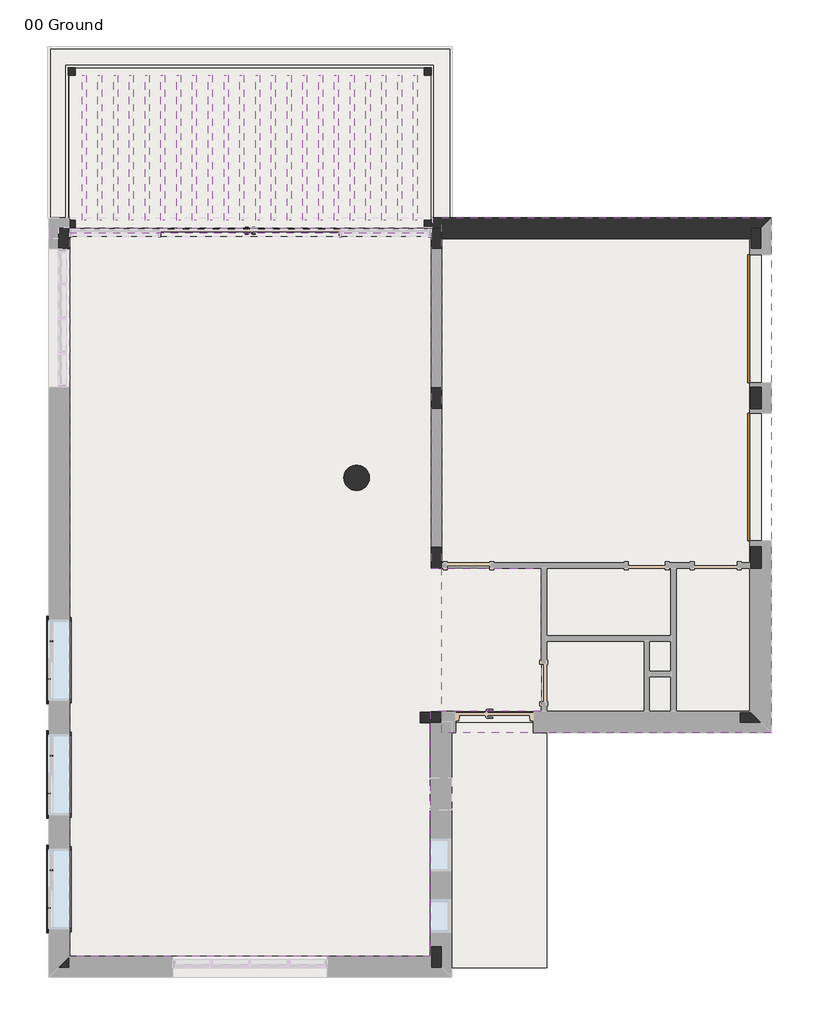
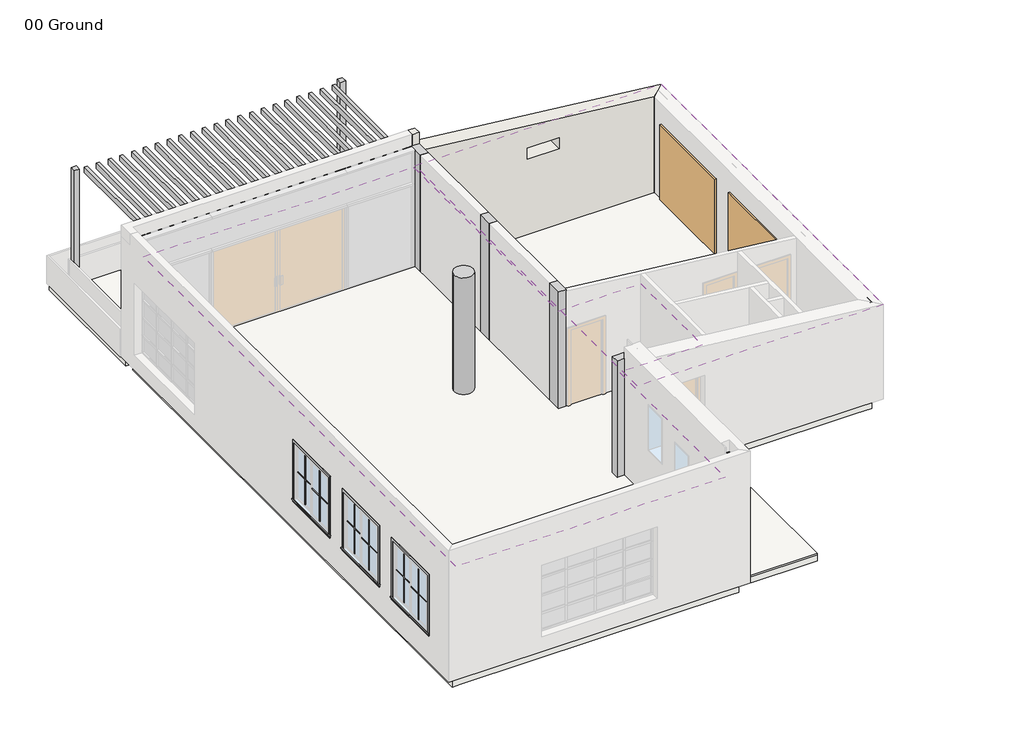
# One storey, part 3 of 3: 22 beams, 19 columns, 12 proxies, 6 slabs, 2 doors, 1 covering, 1 roof, 1 wall.
"""IFC4 building model written with IfcOpenShell, lengths in millimetres."""

from ifc_helpers import new_model, si_unit, point, frame, frame_2d, origin, origin_with_axes, place, context, project, spatial, polyline, circle_curve, trimmed, segment, composite_curve, outline, extrude, faceted_brep, transform, mapped, element, save
from ifc_brep_helpers import plane_surface, cylinder_surface, advanced_brep
from components import m_glulam_southern_pine_76x140_5a5c9036, m_muntin_pattern_2x2_m_muntin_pattern_2x2_30659562, m_trim_window_exterior_flat_with_sill_22923e22, m_trim_window_interior_flat_picture_frame_2e224720, m_glulam_southern_pine_column_127x140_dd4b0262, m_door_overhead_sectional_2400_x_2000mm_9fe30cd6

model = new_model("IFC4")

# Units and contexts
model_context = context("Model", 3, world=origin())
ifc_project = project(units=[si_unit("LENGTHUNIT", "METRE", prefix="MILLI")], contexts=[model_context])

# Site, building, storey
site = spatial("IfcSite", under=ifc_project)
building = spatial("IfcBuilding", under=site)
storey = spatial("IfcBuildingStorey", under=building, Name="00 Ground", Elevation=0.0)

# Beams
placement = place(None, origin())
m_glulam_southern_pine_76x140_shape = m_glulam_southern_pine_76x140_5a5c9036(model_context)
element("IfcBeam", 1, ObjectType="M_Glulam-Southern Pine : 76X140", at=placement, inside=storey, context=model_context, shape_type="MappedRepresentation", body=[
    mapped(m_glulam_southern_pine_76x140_shape, transform((-6656.0190608, 7837.2898352, 3130.0), x_axis=(0.0, -1.0, 0.0), y_axis=(1.0, 0.0, 0.0), z_axis=(0.0, 0.0, 1.0))),
])
element("IfcBeam", 2, ObjectType="M_Glulam-Southern Pine : 76X140", at=placement, inside=storey, context=model_context, shape_type="MappedRepresentation", body=[
    mapped(m_glulam_southern_pine_76x140_shape, transform((-6952.3234086, 7837.2898352, 3130.0), x_axis=(0.0, -1.0, 0.0), y_axis=(1.0, 0.0, 0.0), z_axis=(0.0, 0.0, 1.0))),
])
element("IfcBeam", 3, ObjectType="M_Glulam-Southern Pine : 76X140", at=placement, inside=storey, context=model_context, shape_type="MappedRepresentation", body=[
    mapped(m_glulam_southern_pine_76x140_shape, transform((-7248.6277565, 7837.2898352, 3130.0), x_axis=(0.0, -1.0, 0.0), y_axis=(1.0, 0.0, 0.0), z_axis=(0.0, 0.0, 1.0))),
])
element("IfcBeam", 4, ObjectType="M_Glulam-Southern Pine : 76X140", at=placement, inside=storey, context=model_context, shape_type="MappedRepresentation", body=[
    mapped(m_glulam_southern_pine_76x140_shape, transform((-7544.9321043, 7837.2898352, 3130.0), x_axis=(0.0, -1.0, 0.0), y_axis=(1.0, 0.0, 0.0), z_axis=(0.0, 0.0, 1.0))),
])
element("IfcBeam", 5, ObjectType="M_Glulam-Southern Pine : 76X140", at=placement, inside=storey, context=model_context, shape_type="MappedRepresentation", body=[
    mapped(m_glulam_southern_pine_76x140_shape, transform((-7841.2364521, 7837.2898352, 3130.0), x_axis=(0.0, -1.0, 0.0), y_axis=(1.0, 0.0, 0.0), z_axis=(0.0, 0.0, 1.0))),
])
element("IfcBeam", 6, ObjectType="M_Glulam-Southern Pine : 76X140", at=placement, inside=storey, context=model_context, shape_type="MappedRepresentation", body=[
    mapped(m_glulam_southern_pine_76x140_shape, transform((-1618.8451478, 7837.2898352, 3130.0), x_axis=(0.0, -1.0, 0.0), y_axis=(1.0, 0.0, 0.0), z_axis=(0.0, 0.0, 1.0))),
])
element("IfcBeam", 7, ObjectType="M_Glulam-Southern Pine : 76X140", at=placement, inside=storey, context=model_context, shape_type="MappedRepresentation", body=[
    mapped(m_glulam_southern_pine_76x140_shape, transform((-1915.1494956, 7837.2898352, 3130.0), x_axis=(0.0, -1.0, 0.0), y_axis=(1.0, 0.0, 0.0), z_axis=(0.0, 0.0, 1.0))),
])
element("IfcBeam", 8, ObjectType="M_Glulam-Southern Pine : 76X140", at=placement, inside=storey, context=model_context, shape_type="MappedRepresentation", body=[
    mapped(m_glulam_southern_pine_76x140_shape, transform((-2211.4538434, 7837.2898352, 3130.0), x_axis=(0.0, -1.0, 0.0), y_axis=(1.0, 0.0, 0.0), z_axis=(0.0, 0.0, 1.0))),
])
element("IfcBeam", 9, ObjectType="M_Glulam-Southern Pine : 76X140", at=placement, inside=storey, context=model_context, shape_type="MappedRepresentation", body=[
    mapped(m_glulam_southern_pine_76x140_shape, transform((-2507.7581912, 7837.2898352, 3130.0), x_axis=(0.0, -1.0, 0.0), y_axis=(1.0, 0.0, 0.0), z_axis=(0.0, 0.0, 1.0))),
])
element("IfcBeam", 10, ObjectType="M_Glulam-Southern Pine : 76X140", at=placement, inside=storey, context=model_context, shape_type="MappedRepresentation", body=[
    mapped(m_glulam_southern_pine_76x140_shape, transform((-2804.0625391, 7837.2898352, 3130.0), x_axis=(0.0, -1.0, 0.0), y_axis=(1.0, 0.0, 0.0), z_axis=(0.0, 0.0, 1.0))),
])
element("IfcBeam", 11, ObjectType="M_Glulam-Southern Pine : 76X140", at=placement, inside=storey, context=model_context, shape_type="MappedRepresentation", body=[
    mapped(m_glulam_southern_pine_76x140_shape, transform((-3100.3668869, 7837.2898352, 3130.0), x_axis=(0.0, -1.0, 0.0), y_axis=(1.0, 0.0, 0.0), z_axis=(0.0, 0.0, 1.0))),
])
element("IfcBeam", 12, ObjectType="M_Glulam-Southern Pine : 76X140", at=placement, inside=storey, context=model_context, shape_type="MappedRepresentation", body=[
    mapped(m_glulam_southern_pine_76x140_shape, transform((-3396.6712347, 7837.2898352, 3130.0), x_axis=(0.0, -1.0, 0.0), y_axis=(1.0, 0.0, 0.0), z_axis=(0.0, 0.0, 1.0))),
])
element("IfcBeam", 13, ObjectType="M_Glulam-Southern Pine : 76X140", at=placement, inside=storey, context=model_context, shape_type="MappedRepresentation", body=[
    mapped(m_glulam_southern_pine_76x140_shape, transform((-3692.9755825, 7837.2898352, 3130.0), x_axis=(0.0, -1.0, 0.0), y_axis=(1.0, 0.0, 0.0), z_axis=(0.0, 0.0, 1.0))),
])
element("IfcBeam", 14, ObjectType="M_Glulam-Southern Pine : 76X140", at=placement, inside=storey, context=model_context, shape_type="MappedRepresentation", body=[
    mapped(m_glulam_southern_pine_76x140_shape, transform((-3989.2799304, 7837.2898352, 3130.0), x_axis=(0.0, -1.0, 0.0), y_axis=(1.0, 0.0, 0.0), z_axis=(0.0, 0.0, 1.0))),
])
element("IfcBeam", 15, ObjectType="M_Glulam-Southern Pine : 76X140", at=placement, inside=storey, context=model_context, shape_type="MappedRepresentation", body=[
    mapped(m_glulam_southern_pine_76x140_shape, transform((-4285.5842782, 7837.2898352, 3130.0), x_axis=(0.0, -1.0, 0.0), y_axis=(1.0, 0.0, 0.0), z_axis=(0.0, 0.0, 1.0))),
])
element("IfcBeam", 16, ObjectType="M_Glulam-Southern Pine : 76X140", at=placement, inside=storey, context=model_context, shape_type="MappedRepresentation", body=[
    mapped(m_glulam_southern_pine_76x140_shape, transform((-4581.888626, 7837.2898352, 3130.0), x_axis=(0.0, -1.0, 0.0), y_axis=(1.0, 0.0, 0.0), z_axis=(0.0, 0.0, 1.0))),
])
element("IfcBeam", 17, ObjectType="M_Glulam-Southern Pine : 76X140", at=placement, inside=storey, context=model_context, shape_type="MappedRepresentation", body=[
    mapped(m_glulam_southern_pine_76x140_shape, transform((-4878.1929738, 7837.2898352, 3130.0), x_axis=(0.0, -1.0, 0.0), y_axis=(1.0, 0.0, 0.0), z_axis=(0.0, 0.0, 1.0))),
])
element("IfcBeam", 18, ObjectType="M_Glulam-Southern Pine : 76X140", at=placement, inside=storey, context=model_context, shape_type="MappedRepresentation", body=[
    mapped(m_glulam_southern_pine_76x140_shape, transform((-5174.4973217, 7837.2898352, 3130.0), x_axis=(0.0, -1.0, 0.0), y_axis=(1.0, 0.0, 0.0), z_axis=(0.0, 0.0, 1.0))),
])
element("IfcBeam", 19, ObjectType="M_Glulam-Southern Pine : 76X140", at=placement, inside=storey, context=model_context, shape_type="MappedRepresentation", body=[
    mapped(m_glulam_southern_pine_76x140_shape, transform((-5470.8016695, 7837.2898352, 3130.0), x_axis=(0.0, -1.0, 0.0), y_axis=(1.0, 0.0, 0.0), z_axis=(0.0, 0.0, 1.0))),
])
element("IfcBeam", 20, ObjectType="M_Glulam-Southern Pine : 76X140", at=placement, inside=storey, context=model_context, shape_type="MappedRepresentation", body=[
    mapped(m_glulam_southern_pine_76x140_shape, transform((-5767.1060173, 7837.2898352, 3130.0), x_axis=(0.0, -1.0, 0.0), y_axis=(1.0, 0.0, 0.0), z_axis=(0.0, 0.0, 1.0))),
])
element("IfcBeam", 21, ObjectType="M_Glulam-Southern Pine : 76X140", at=placement, inside=storey, context=model_context, shape_type="MappedRepresentation", body=[
    mapped(m_glulam_southern_pine_76x140_shape, transform((-6063.4103652, 7837.2898352, 3130.0), x_axis=(0.0, -1.0, 0.0), y_axis=(1.0, 0.0, 0.0), z_axis=(0.0, 0.0, 1.0))),
])
element("IfcBeam", 22, ObjectType="M_Glulam-Southern Pine : 76X140", at=placement, inside=storey, context=model_context, shape_type="MappedRepresentation", body=[
    mapped(m_glulam_southern_pine_76x140_shape, transform((-6359.714713, 7837.2898352, 3130.0), x_axis=(0.0, -1.0, 0.0), y_axis=(1.0, 0.0, 0.0), z_axis=(0.0, 0.0, 1.0))),
])

# Proxies
m_muntin_pattern_2x2_m_muntin_pattern_2x2_shape = m_muntin_pattern_2x2_m_muntin_pattern_2x2_30659562(model_context)
element("IfcBuildingElementProxy", 23, Name="M_Muntin Pattern_2x2 : M_Muntin Pattern_2x2", ObjectType="M_Muntin Pattern_2x2 : M_Muntin Pattern_2x2", at=placement, inside=storey, context=model_context, shape_type="MappedRepresentation", body=[
    mapped(m_muntin_pattern_2x2_m_muntin_pattern_2x2_shape, transform((-8453.5657999, -5733.3476648, 882.55), x_axis=(0.0, 1.0, 0.0), y_axis=(-1.0, 0.0, 0.0), z_axis=(0.0, 0.0, 1.0))),
])
element("IfcBuildingElementProxy", 24, Name="M_Muntin Pattern_2x2 : M_Muntin Pattern_2x2", ObjectType="M_Muntin Pattern_2x2 : M_Muntin Pattern_2x2", at=placement, inside=storey, context=model_context, shape_type="MappedRepresentation", body=[
    mapped(m_muntin_pattern_2x2_m_muntin_pattern_2x2_shape, transform((-8498.0157999, -6442.0726648, 882.55), x_axis=(0.0, 1.0, 0.0), y_axis=(-1.0, 0.0, 0.0), z_axis=(0.0, 0.0, 1.0))),
])
element("IfcBuildingElementProxy", 25, Name="M_Muntin Pattern_2x2 : M_Muntin Pattern_2x2", ObjectType="M_Muntin Pattern_2x2 : M_Muntin Pattern_2x2", at=placement, inside=storey, context=model_context, shape_type="MappedRepresentation", body=[
    mapped(m_muntin_pattern_2x2_m_muntin_pattern_2x2_shape, transform((-8453.5657999, -3583.3476648, 882.55), x_axis=(0.0, 1.0, 0.0), y_axis=(-1.0, 0.0, 0.0), z_axis=(0.0, 0.0, 1.0))),
])
element("IfcBuildingElementProxy", 26, Name="M_Muntin Pattern_2x2 : M_Muntin Pattern_2x2", ObjectType="M_Muntin Pattern_2x2 : M_Muntin Pattern_2x2", at=placement, inside=storey, context=model_context, shape_type="MappedRepresentation", body=[
    mapped(m_muntin_pattern_2x2_m_muntin_pattern_2x2_shape, transform((-8498.0157999, -4292.0726648, 882.55), x_axis=(0.0, 1.0, 0.0), y_axis=(-1.0, 0.0, 0.0), z_axis=(0.0, 0.0, 1.0))),
])
element("IfcBuildingElementProxy", 27, Name="M_Muntin Pattern_2x2 : M_Muntin Pattern_2x2", ObjectType="M_Muntin Pattern_2x2 : M_Muntin Pattern_2x2", at=placement, inside=storey, context=model_context, shape_type="MappedRepresentation", body=[
    mapped(m_muntin_pattern_2x2_m_muntin_pattern_2x2_shape, transform((-8453.5657999, -1433.3476648, 882.55), x_axis=(0.0, 1.0, 0.0), y_axis=(-1.0, 0.0, 0.0), z_axis=(0.0, 0.0, 1.0))),
])
element("IfcBuildingElementProxy", 28, Name="M_Muntin Pattern_2x2 : M_Muntin Pattern_2x2", ObjectType="M_Muntin Pattern_2x2 : M_Muntin Pattern_2x2", at=placement, inside=storey, context=model_context, shape_type="MappedRepresentation", body=[
    mapped(m_muntin_pattern_2x2_m_muntin_pattern_2x2_shape, transform((-8498.0157999, -2142.0726648, 882.55), x_axis=(0.0, 1.0, 0.0), y_axis=(-1.0, 0.0, 0.0), z_axis=(0.0, 0.0, 1.0))),
])
m_trim_window_exterior_flat_with_sill_shape = m_trim_window_exterior_flat_with_sill_22923e22(model_context)
element("IfcBuildingElementProxy", 29, Name="M_Trim-Window-Exterior-Flat : with Sill", ObjectType="M_Trim-Window-Exterior-Flat : with Sill", at=placement, inside=storey, context=model_context, shape_type="MappedRepresentation", body=[
    mapped(m_trim_window_exterior_flat_with_sill_shape, transform((-8507.5407999, -6087.7101648, 2300.0), x_axis=(0.0, -1.0, 0.0), y_axis=(0.0, 0.0, 1.0), z_axis=(-1.0, 0.0, 0.0))),
])
element("IfcBuildingElementProxy", 30, Name="M_Trim-Window-Exterior-Flat : with Sill", ObjectType="M_Trim-Window-Exterior-Flat : with Sill", at=placement, inside=storey, context=model_context, shape_type="MappedRepresentation", body=[
    mapped(m_trim_window_exterior_flat_with_sill_shape, transform((-8507.5407999, -3937.7101648, 2300.0), x_axis=(0.0, -1.0, 0.0), y_axis=(0.0, 0.0, 1.0), z_axis=(-1.0, 0.0, 0.0))),
])
element("IfcBuildingElementProxy", 31, Name="M_Trim-Window-Exterior-Flat : with Sill", ObjectType="M_Trim-Window-Exterior-Flat : with Sill", at=placement, inside=storey, context=model_context, shape_type="MappedRepresentation", body=[
    mapped(m_trim_window_exterior_flat_with_sill_shape, transform((-8507.5407999, -1787.7101648, 2300.0), x_axis=(0.0, -1.0, 0.0), y_axis=(0.0, 0.0, 1.0), z_axis=(-1.0, 0.0, 0.0))),
])
m_trim_window_interior_flat_picture_frame_shape = m_trim_window_interior_flat_picture_frame_2e224720(model_context)
element("IfcBuildingElementProxy", 32, Name="M_Trim-Window-Interior-Flat : Picture Frame", ObjectType="M_Trim-Window-Interior-Flat : Picture Frame", at=placement, inside=storey, context=model_context, shape_type="MappedRepresentation", body=[
    mapped(m_trim_window_interior_flat_picture_frame_shape, transform((-8109.5407999, -6087.7101648, 2300.0), x_axis=(0.0, 1.0, 0.0), y_axis=(0.0, 0.0, 1.0), z_axis=(1.0, 0.0, 0.0))),
])
element("IfcBuildingElementProxy", 33, Name="M_Trim-Window-Interior-Flat : Picture Frame", ObjectType="M_Trim-Window-Interior-Flat : Picture Frame", at=placement, inside=storey, context=model_context, shape_type="MappedRepresentation", body=[
    mapped(m_trim_window_interior_flat_picture_frame_shape, transform((-8109.5407999, -3937.7101648, 2300.0), x_axis=(0.0, 1.0, 0.0), y_axis=(0.0, 0.0, 1.0), z_axis=(1.0, 0.0, 0.0))),
])
element("IfcBuildingElementProxy", 34, Name="M_Trim-Window-Interior-Flat : Picture Frame", ObjectType="M_Trim-Window-Interior-Flat : Picture Frame", at=placement, inside=storey, context=model_context, shape_type="MappedRepresentation", body=[
    mapped(m_trim_window_interior_flat_picture_frame_shape, transform((-8109.5407999, -1787.7101648, 2300.0), x_axis=(0.0, 1.0, 0.0), y_axis=(0.0, 0.0, 1.0), z_axis=(1.0, 0.0, 0.0))),
])

# Columns
element("IfcColumn", 35, ObjectType="M_Concrete-Rectangular-Column : 200 x 400mm", at=placement, inside=storey, context=model_context, shape_type="Brep", body=[
    faceted_brep([(-8122.5407999, 6337.2898352, 0.0), (-8122.5407999, 5937.2898352, 0.0), (-8322.5407999, 5937.2898352, 0.0), (-8322.5407999, 6337.2898352, 0.0), (-8122.5407999, 6337.2898352, 3200.0), (-8122.5407999, 5937.2898352, 3200.0), (-8122.5407999, 5937.2898352, 2300.0), (-8122.5407999, 5937.2898352, 400.0), (-8322.5407999, 5937.2898352, 3200.0), (-8322.5407999, 5937.2898352, 2300.0), (-8322.5407999, 5937.2898352, 400.0), (-8322.5407999, 6124.2898352, 3200.0), (-8322.5407999, 6337.2898352, 3200.0)], [[[0, 1, 2, 3]], [[1, 0, 4, 5, 6, 7]], [[2, 1, 7, 6, 5, 8, 9, 10]], [[3, 2, 10, 9, 8, 11, 12]], [[0, 3, 12, 4]], [[5, 4, 12, 11, 8]]]),
])
element("IfcColumn", 36, ObjectType="M_Concrete-Rectangular-Column : 200 x 400mm", at=placement, inside=storey, context=model_context, shape_type="SweptSolid", body=[
    extrude(outline(polyline([(-8122.5407999, 3337.2898352), (-8122.5407999, 2937.2898352), (-8322.5407999, 2937.2898352), (-8322.5407999, 3337.2898352), (-8122.5407999, 3337.2898352)])), origin_with_axes(), (0.0, 0.0, 1.0), 3200.0),
])
element("IfcColumn", 37, ObjectType="M_Concrete-Rectangular-Column : 200 x 400mm", at=placement, inside=storey, context=model_context, shape_type="SweptSolid", body=[
    extrude(outline(polyline([(-8122.5407999, 337.2898352), (-8122.5407999, -62.7101648), (-8322.5407999, -62.7101648), (-8322.5407999, 337.2898352), (-8122.5407999, 337.2898352)])), origin_with_axes(), (0.0, 0.0, 1.0), 3200.0),
])
element("IfcColumn", 38, ObjectType="M_Concrete-Rectangular-Column : 200 x 400mm", at=placement, inside=storey, context=model_context, shape_type="SweptSolid", body=[
    extrude(outline(polyline([(-8122.5407999, -2662.7101648), (-8122.5407999, -3062.7101648), (-8322.5407999, -3062.7101648), (-8322.5407999, -2662.7101648), (-8122.5407999, -2662.7101648)])), origin_with_axes(), (0.0, 0.0, 1.0), 3200.0),
])
element("IfcColumn", 39, ObjectType="M_Concrete-Rectangular-Column : 200 x 400mm", at=placement, inside=storey, context=model_context, shape_type="SweptSolid", body=[
    extrude(outline(polyline([(-1122.5407999, 337.2898352), (-1122.5407999, -62.7101648), (-1322.5407999, -62.7101648), (-1322.5407999, 337.2898352), (-1122.5407999, 337.2898352)])), origin_with_axes(), (0.0, 0.0, 1.0), 3200.0),
])
element("IfcColumn", 40, ObjectType="M_Concrete-Rectangular-Column : 200 x 400mm", at=placement, inside=storey, context=model_context, shape_type="Brep", body=[
    faceted_brep([(-1522.5407999, -2762.7101648, 0.0), (-1122.5407999, -2762.7101648, 0.0), (-1122.5407999, -2948.7101648, 0.0), (-1122.5407999, -2962.7101648, 0.0), (-1335.5407999, -2962.7101648, 0.0), (-1522.5407999, -2962.7101648, 0.0), (-1522.5407999, -2762.7101648, 3200.0), (-1122.5407999, -2762.7101648, 3200.0), (-1122.5407999, -2962.7101648, 3200.0), (-1522.5407999, -2962.7101648, 3200.0)], [[[0, 1, 2, 3, 4, 5]], [[1, 0, 6, 7]], [[3, 2, 1, 7, 8]], [[5, 4, 3, 8, 9]], [[0, 5, 9, 6]], [[7, 6, 9, 8]]]),
])
element("IfcColumn", 41, ObjectType="M_Concrete-Rectangular-Column : 200 x 400mm", at=placement, inside=storey, context=model_context, shape_type="Brep", body=[
    faceted_brep([(4877.4592001, 6337.2898352, 0.0), (4877.4592001, 5937.2898352, 0.0), (4677.4592001, 5937.2898352, 0.0), (4677.4592001, 6137.2898352, 0.0), (4677.4592001, 6337.2898352, 0.0), (4877.4592001, 6337.2898352, 2519.7413096), (4877.4592001, 5937.2898352, 2519.7413096), (4677.4592001, 5937.2898352, 2519.7413096), (4677.4592001, 6137.2898352, 2519.7413096), (4677.4592001, 6337.2898352, 2519.7413096)], [[[0, 1, 2, 3, 4]], [[5, 6, 1, 0]], [[6, 7, 2, 1]], [[7, 8, 9, 4, 3, 2]], [[9, 5, 0, 4]], [[5, 9, 8, 7, 6]]]),
])
element("IfcColumn", 42, ObjectType="M_Concrete-Rectangular-Column : 200 x 400mm", at=placement, inside=storey, context=model_context, shape_type="Brep", body=[
    faceted_brep([(-1122.5407999, 6337.2898352, 0.0), (-1122.5407999, 6124.2898352, 0.0), (-1122.5407999, 5937.2898352, 0.0), (-1322.5407999, 5937.2898352, 0.0), (-1322.5407999, 6337.2898352, 0.0), (-1122.5407999, 6337.2898352, 3160.0), (-1122.5407999, 6337.2898352, 3200.0), (-1122.5407999, 5937.2898352, 3200.0), (-1322.5407999, 5937.2898352, 3200.0), (-1322.5407999, 6337.2898352, 3200.0), (-1300.0407999, 6337.2898352, 3200.0)], [[[0, 1, 2, 3, 4]], [[2, 1, 0, 5, 6, 7]], [[3, 2, 7, 8]], [[4, 3, 8, 9]], [[0, 4, 9, 10, 6, 5]], [[7, 6, 10, 9, 8]]]),
])
element("IfcColumn", 43, ObjectType="M_Concrete-Rectangular-Column : 200 x 400mm", at=placement, inside=storey, context=model_context, shape_type="SweptSolid", body=[
    extrude(outline(polyline([(-1122.5407999, 3337.2898352), (-1122.5407999, 2937.2898352), (-1322.5407999, 2937.2898352), (-1322.5407999, 3337.2898352), (-1122.5407999, 3337.2898352)])), origin_with_axes(), (0.0, 0.0, 1.0), 3200.0),
])
element("IfcColumn", 44, ObjectType="M_Concrete-Rectangular-Column : 200 x 400mm", at=placement, inside=storey, context=model_context, shape_type="SweptSolid", body=[
    extrude(outline(polyline([(4877.4592001, 3337.2898352), (4877.4592001, 2937.2898352), (4677.4592001, 2937.2898352), (4677.4592001, 3337.2898352), (4877.4592001, 3337.2898352)])), origin_with_axes(), (0.0, 0.0, 1.0), 2519.7413096),
])
element("IfcColumn", 45, ObjectType="M_Concrete-Rectangular-Column : 200 x 400mm", at=placement, inside=storey, context=model_context, shape_type="Brep", body=[
    faceted_brep([(4477.4592001, -2762.7101648, 0.0), (4677.4592001, -2762.7101648, 0.0), (4877.4592001, -2762.7101648, 0.0), (4877.4592001, -2962.7101648, 0.0), (4477.4592001, -2962.7101648, 0.0), (4477.4592001, -2762.7101648, 2519.7413096), (4677.4592001, -2762.7101648, 2519.7413096), (4877.4592001, -2762.7101648, 2519.7413096), (4877.4592001, -2962.7101648, 2519.7413096), (4477.4592001, -2962.7101648, 2519.7413096)], [[[0, 1, 2, 3, 4]], [[5, 6, 7, 2, 1, 0]], [[7, 8, 3, 2]], [[8, 9, 4, 3]], [[9, 5, 0, 4]], [[5, 9, 8, 7, 6]]]),
])
element("IfcColumn", 46, ObjectType="M_Concrete-Rectangular-Column : 200 x 400mm", at=placement, inside=storey, context=model_context, shape_type="SweptSolid", body=[
    extrude(outline(polyline([(4677.4592001, -62.7101648), (4677.4592001, 337.2898352), (4877.4592001, 337.2898352), (4877.4592001, -62.7101648), (4677.4592001, -62.7101648)])), origin_with_axes(), (0.0, 0.0, 1.0), 2519.7413096),
])
element("IfcColumn", 47, ObjectType="M_Concrete-Rectangular-Column : 200 x 400mm", at=placement, inside=storey, context=model_context, shape_type="Brep", body=[
    faceted_brep([(-8122.5407999, -7162.7101648, 0.0), (-8122.5407999, -7362.7101648, 0.0), (-8122.5407999, -7562.7101648, 0.0), (-8322.5407999, -7562.7101648, 0.0), (-8322.5407999, -7162.7101648, 0.0), (-8122.5407999, -7162.7101648, 3200.0), (-8122.5407999, -7362.7101648, 3200.0), (-8122.5407999, -7562.7101648, 3200.0), (-8322.5407999, -7562.7101648, 3200.0), (-8322.5407999, -7162.7101648, 3200.0)], [[[0, 1, 2, 3, 4]], [[2, 1, 0, 5, 6, 7]], [[3, 2, 7, 8]], [[4, 3, 8, 9]], [[0, 4, 9, 5]], [[7, 6, 5, 9, 8]]]),
])
element("IfcColumn", 48, ObjectType="M_Concrete-Rectangular-Column : 200 x 400mm", at=placement, inside=storey, context=model_context, shape_type="Brep", body=[
    faceted_brep([(-1122.5407999, -7162.7101648, 0.0), (-1122.5407999, -7562.7101648, 0.0), (-1322.5407999, -7562.7101648, 0.0), (-1322.5407999, -7362.7101648, 0.0), (-1322.5407999, -7162.7101648, 0.0), (-1122.5407999, -7162.7101648, 3200.0), (-1122.5407999, -7562.7101648, 3200.0), (-1322.5407999, -7562.7101648, 3200.0), (-1322.5407999, -7362.7101648, 3200.0), (-1322.5407999, -7162.7101648, 3200.0)], [[[0, 1, 2, 3, 4]], [[1, 0, 5, 6]], [[2, 1, 6, 7]], [[4, 3, 2, 7, 8, 9]], [[0, 4, 9, 5]], [[6, 5, 9, 8, 7]]]),
])
element("IfcColumn", 49, ObjectType="M_Concrete-Round-Column : 480mm", at=placement, inside=storey, context=model_context, shape_type="AdvancedBrep", body=[
    advanced_brep(
    [(-2962.5407999, 1637.2898352, 0.0), (-2482.5407999, 1637.2898352, 0.0), (-2962.5407999, 1637.2898352, 3200.0), (-2482.5407999, 1637.2898352, 3200.0), (-2722.1476319, 1397.2901573, 3200.0)],
    [
        (0, 1, circle_curve(frame((-2722.5407999, 1637.2898352, 0.0), z_axis=(0.0, 0.0, -1.0), x_axis=(1.0, 0.0, 0.0)), 240.0)),
        (1, 0, circle_curve(frame((-2722.5407999, 1637.2898352, 0.0), z_axis=(0.0, 0.0, -1.0), x_axis=(1.0, 0.0, 0.0)), 240.0)),
        (0, 2),
        (2, 3, circle_curve(frame((-2722.5407999, 1637.2898352, 3200.0), z_axis=(0.0, 0.0, -1.0), x_axis=(1.0, 0.0, 0.0)), 240.0)),
        (3, 1),
        (3, 4, circle_curve(frame((-2722.5407999, 1637.2898352, 3200.0), z_axis=(0.0, 0.0, -1.0), x_axis=(1.0, 0.0, 0.0)), 240.0)),
        (4, 2, circle_curve(frame((-2722.5407999, 1637.2898352, 3200.0), z_axis=(0.0, 0.0, -1.0), x_axis=(1.0, 0.0, 0.0)), 240.0)),
    ],
    [
        plane_surface(frame((-2482.5407999, 1637.2898352, 0.0), z_axis=(0.0, 0.0, -1.0), x_axis=(0.0, -1.0, 0.0))),
        cylinder_surface(frame((-2722.5407999, 1637.2898352, 0.0), z_axis=(0.0, 0.0, 1.0), x_axis=(1.0, 0.0, 0.0)), 240.0),
        plane_surface(frame((4877.4592001, 6337.2898352, 3200.0), z_axis=(0.0, 0.0, 1.0), x_axis=(1.0, 0.0, 0.0))),
    ],
    [
        (0, [[1, 2]]),
        (1, [[-1, 3, 4, 5]]),
        (1, [[-2, -5, 6, 7, -3]]),
        (2, [[-4, -7, -6]]),
    ],
),
])
m_glulam_southern_pine_column_127x140_shape = m_glulam_southern_pine_column_127x140_dd4b0262(model_context)
element("IfcColumn", 50, ObjectType="M_Glulam-Southern Pine-Column : 127x140", at=placement, inside=storey, context=model_context, shape_type="MappedRepresentation", body=[
    mapped(m_glulam_southern_pine_column_127x140_shape, transform((-8074.0407999, 9267.2898352, 0.0), x_axis=(1.0, 0.0, 0.0), y_axis=(0.0, 1.0, 0.0), z_axis=(0.0, 0.0, 1.0))),
])
element("IfcColumn", 51, ObjectType="M_Glulam-Southern Pine-Column : 127x140", at=placement, inside=storey, context=model_context, shape_type="MappedRepresentation", body=[
    mapped(m_glulam_southern_pine_column_127x140_shape, transform((-1386.0407999, 9267.2898352, 0.0), x_axis=(1.0, 0.0, 0.0), y_axis=(0.0, 1.0, 0.0), z_axis=(0.0, 0.0, 1.0))),
])
element("IfcColumn", 52, ObjectType="M_Glulam-Southern Pine-Column : 127x140", at=placement, inside=storey, context=model_context, shape_type="MappedRepresentation", body=[
    mapped(m_glulam_southern_pine_column_127x140_shape, transform((-8074.0407999, 6407.2898352, 0.0), x_axis=(1.0, 0.0, 0.0), y_axis=(0.0, 1.0, 0.0), z_axis=(0.0, 0.0, 1.0))),
])
element("IfcColumn", 53, ObjectType="M_Glulam-Southern Pine-Column : 127x140", at=placement, inside=storey, context=model_context, shape_type="MappedRepresentation", body=[
    mapped(m_glulam_southern_pine_column_127x140_shape, transform((-1386.0407999, 6407.2898352, 0.0), x_axis=(1.0, 0.0, 0.0), y_axis=(0.0, 1.0, 0.0), z_axis=(0.0, 0.0, 1.0))),
])

# Covering
element("IfcCovering", 54, ObjectType="600 x 600mm Grid", at=placement, inside=storey, context=model_context, shape_type="SweptSolid", body=[
    extrude(outline(polyline([(746.9592001, -2749.7101648), (-1335.5407999, -2749.7101648), (-1335.5407999, -7349.7101648), (-8109.5407999, -7349.7101648), (-8109.5407999, 6242.2898352), (-1322.5407999, 6242.2898352), (-1322.5407999, -62.7101648), (746.9592001, -62.7101648), (746.9592001, -2749.7101648)]), holes=[composite_curve([segment(polyline([(-3762.5550463, 1637.3625525), (-2962.1657331, 1637.3625525)]), True, "CONTINUOUS"), segment(trimmed(circle_curve(frame_2d((-2722.147977, 1637.3625525)), 240.0177561), [point((-2962.1657331, 1637.3625525))], [point((-2722.147977, 1397.3447964))], False, "CARTESIAN"), True, "CONTINUOUS"), segment(polyline([(-2722.147977, 1397.3447964), (-2709.6572376, 597.4130295)]), True, "CONTINUOUS"), segment(trimmed(circle_curve(frame_2d((-2722.5259059, 1637.3625525)), 1040.0291404), [point((-2709.6572376, 597.4130295))], [point((-3762.5550463, 1637.3625525))], True, "CARTESIAN"), True, "CONTINUOUS")], self_intersect=False)]), frame((0.0, 0.0, 2700.0), z_axis=(0.0, 0.0, 1.0), x_axis=(1.0, 0.0, 0.0)), (0.0, 0.0, 1.0), 52.0),
])

# Doors
m_door_overhead_sectional_2400_x_2000mm_shape = m_door_overhead_sectional_2400_x_2000mm_9fe30cd6(model_context)
element("IfcDoor", 55, ObjectType="M_Door-Overhead-Sectional : 2400 x 2000mm", at=placement, inside=storey, context=model_context, shape_type="MappedRepresentation", body=[
    mapped(m_door_overhead_sectional_2400_x_2000mm_shape, transform((4863.4592001, 4624.2898352, 0.0), x_axis=(0.0, -1.0, 0.0), y_axis=(1.0, 0.0, 0.0), z_axis=(0.0, 0.0, 1.0))),
])
element("IfcDoor", 56, ObjectType="M_Door-Overhead-Sectional : 2400 x 2000mm", at=placement, inside=storey, context=model_context, shape_type="MappedRepresentation", body=[
    mapped(m_door_overhead_sectional_2400_x_2000mm_shape, transform((4863.4592001, 1650.2898352, 0.0), x_axis=(0.0, -1.0, 0.0), y_axis=(1.0, 0.0, 0.0), z_axis=(0.0, 0.0, 1.0))),
])

# Roof
element("IfcRoof", 57, ObjectType="Warm Roof - Timber", at=placement, inside=storey, context=model_context, shape_type="SweptSolid", body=[
    extrude(outline(polyline([(2839.9189519, 5062.4592001), (3499.9189519, -1122.5407999), (3160.0, -1122.5407999), (2500.0, 5062.4592001), (2839.9189519, 5062.4592001)])), frame((0.0, -3147.7101648, 0.0), z_axis=(0.0, 1.0, 0.0), x_axis=(0.0, 0.0, 1.0)), (0.0, 0.0, 1.0), 9670.0),
])

# Slabs
element("IfcSlab", 58, ObjectType="DECK FLOOR TILES 40mm", at=placement, inside=storey, context=model_context, shape_type="SweptSolid", body=[
    extrude(outline(polyline([(-1322.5407999, 6337.2898352), (-8122.5407999, 6337.2898352), (-8122.5407999, 9337.2898352), (-1322.5407999, 9337.2898352), (-1322.5407999, 6337.2898352)])), origin_with_axes(), (0.0, 0.0, 1.0), 40.0),
])
element("IfcSlab", 59, ObjectType="DECK FLOOR TILES 40mm", at=placement, inside=storey, context=model_context, shape_type="SweptSolid", body=[
    extrude(outline(polyline([(-937.5407999, -7562.7101648), (-937.5407999, -3147.7101648), (-857.5407999, -3147.7101648), (-857.5407999, -2962.7101648), (592.4592001, -2962.7101648), (592.4592001, -3147.7101648), (846.9592001, -3147.7101648), (846.9592001, -7562.7101648), (-937.5407999, -7562.7101648)])), origin_with_axes(), (0.0, 0.0, 1.0), 40.0),
])
element("IfcSlab", 60, ObjectType="Floor Mosaic + Parquet 103mm", at=placement, inside=storey, context=model_context, shape_type="SweptSolid", body=[
    extrude(outline(polyline([(-8109.5407999, 6167.2898352), (-1322.5407999, 6167.2898352), (-1322.5407999, -62.7101648), (746.9592001, -62.7101648), (746.9592001, -2749.7101648), (-1335.5407999, -2749.7101648), (-1335.5407999, -7349.7101648), (-8109.5407999, -7349.7101648), (-8109.5407999, 6167.2898352)])), origin_with_axes(), (0.0, 0.0, 1.0), 103.0),
])
element("IfcSlab", 61, ObjectType="Generic 300mm", at=placement, inside=storey, context=model_context, shape_type="Brep", body=[
    faceted_brep([(-8322.5407999, 6337.2898352, -300.0), (-8122.5407999, 6337.2898352, -300.0), (-1322.5407999, 6337.2898352, -300.0), (-1122.5407999, 6337.2898352, -300.0), (4677.4592001, 6337.2898352, -300.0), (4877.4592001, 6337.2898352, -300.0), (4877.4592001, 5937.2898352, -300.0), (4877.4592001, 3337.2898352, -300.0), (4877.4592001, 2937.2898352, -300.0), (4877.4592001, 337.2898352, -300.0), (4877.4592001, -62.7101648, -300.0), (4877.4592001, -2762.7101648, -300.0), (4877.4592001, -2962.7101648, -300.0), (4477.4592001, -2962.7101648, -300.0), (-1122.5407999, -2962.7101648, -300.0), (-1122.5407999, -7162.7101648, -300.0), (-1122.5407999, -7562.7101648, -300.0), (-1322.5407999, -7562.7101648, -300.0), (-8122.5407999, -7562.7101648, -300.0), (-8322.5407999, -7562.7101648, -300.0), (-8322.5407999, -7162.7101648, -300.0), (-8322.5407999, -3062.7101648, -300.0), (-8322.5407999, -2662.7101648, -300.0), (-8322.5407999, -62.7101648, -300.0), (-8322.5407999, 337.2898352, -300.0), (-8322.5407999, 2937.2898352, -300.0), (-8322.5407999, 3337.2898352, -300.0), (-8322.5407999, 5937.2898352, -300.0), (-8322.5407999, 6337.2898352, 0.0), (-8322.5407999, 5937.2898352, 0.0), (-8322.5407999, 3337.2898352, 0.0), (-8322.5407999, 2937.2898352, 0.0), (-8322.5407999, 337.2898352, 0.0), (-8322.5407999, -62.7101648, 0.0), (-8322.5407999, -2662.7101648, 0.0), (-8322.5407999, -3062.7101648, 0.0), (-8322.5407999, -7162.7101648, 0.0), (-8322.5407999, -7562.7101648, 0.0), (-8122.5407999, -7562.7101648, 0.0), (-1322.5407999, -7562.7101648, 0.0), (-1122.5407999, -7562.7101648, 0.0), (-1122.5407999, -7162.7101648, 0.0), (-1122.5407999, -2962.7101648, 0.0), (4477.4592001, -2962.7101648, 0.0), (4877.4592001, -2962.7101648, 0.0), (4877.4592001, -2762.7101648, 0.0), (4877.4592001, -62.7101648, 0.0), (4877.4592001, 337.2898352, 0.0), (4877.4592001, 2937.2898352, 0.0), (4877.4592001, 3337.2898352, 0.0), (4877.4592001, 5937.2898352, 0.0), (4877.4592001, 6337.2898352, 0.0), (4677.4592001, 6337.2898352, 0.0), (-1122.5407999, 6337.2898352, 0.0), (-1322.5407999, 6337.2898352, 0.0), (-8122.5407999, 6337.2898352, 0.0)], [[[0, 1, 2, 3, 4, 5, 6, 7, 8, 9, 10, 11, 12, 13, 14, 15, 16, 17, 18, 19, 20, 21, 22, 23, 24, 25, 26, 27]], [[28, 29, 30, 31, 32, 33, 34, 35, 36, 37, 38, 39, 40, 41, 42, 43, 44, 45, 46, 47, 48, 49, 50, 51, 52, 53, 54, 55]], [[5, 4, 3, 2, 1, 0, 28, 55, 54, 53, 52, 51]], [[12, 11, 10, 9, 8, 7, 6, 5, 51, 50, 49, 48, 47, 46, 45, 44]], [[14, 13, 12, 44, 43, 42]], [[16, 15, 14, 42, 41, 40]], [[19, 18, 17, 16, 40, 39, 38, 37]], [[0, 27, 26, 25, 24, 23, 22, 21, 20, 19, 37, 36, 35, 34, 33, 32, 31, 30, 29, 28]]]),
])
element("IfcSlab", 62, ObjectType="TERRACE SLAB 150mm", at=placement, inside=storey, context=model_context, shape_type="SweptSolid", body=[
    extrude(outline(polyline([(-967.5407999, 9692.2898352), (-967.5407999, 6522.2898352), (-1322.5407999, 6522.2898352), (-1322.5407999, 6337.2898352), (-8109.5407999, 6337.2898352), (-8109.5407999, 6359.7898352), (-8477.5407999, 6359.7898352), (-8477.5407999, 9692.2898352), (-967.5407999, 9692.2898352)])), frame((0.0, 0.0, -150.0), z_axis=(0.0, 0.0, 1.0), x_axis=(1.0, 0.0, 0.0)), (0.0, 0.0, 1.0), 150.0),
])
element("IfcSlab", 63, ObjectType="TERRACE SLAB 150mm", at=placement, inside=storey, context=model_context, shape_type="SweptSolid", body=[
    extrude(outline(polyline([(846.9592001, -2962.7101648), (846.9592001, -7562.7101648), (-1122.5407999, -7562.7101648), (-1122.5407999, -2962.7101648), (846.9592001, -2962.7101648)])), frame((0.0, 0.0, -150.0), z_axis=(0.0, 0.0, 1.0), x_axis=(1.0, 0.0, 0.0)), (0.0, 0.0, 1.0), 150.0),
])

# Wall
element("IfcWall", 64, ObjectType="Exterior - Brick on CMU", at=placement, inside=storey, context=model_context, shape_type="Brep", body=[
    faceted_brep([(5062.4592001, 6522.2898352, 0.0), (-922.5407999, 6522.2898352, 0.0), (-967.5407999, 6522.2898352, 0.0), (-1277.5407999, 6522.2898352, 0.0), (-1322.5407999, 6522.2898352, 0.0), (-1322.5407999, 6522.2898352, 750.0), (-1322.5407999, 6522.2898352, 3200.0), (-1300.0407999, 6522.2898352, 3200.0), (-1300.0407999, 6522.2898352, 3500.0), (-1122.5407999, 6522.2898352, 3500.0), (-1122.5407999, 6522.2898352, 3160.0), (5062.4592001, 6522.2898352, 2500.0), (2271.4592001, 6522.2898352, 2300.0), (1471.4592001, 6522.2898352, 2300.0), (1471.4592001, 6522.2898352, 2000.0), (2271.4592001, 6522.2898352, 2000.0), (4664.4592001, 6124.2898352, 0.0), (4664.4592001, 6124.2898352, 2542.4704931), (-1122.5407999, 6124.2898352, 3160.0), (-1122.5407999, 6124.2898352, 0.0), (1471.4592001, 6124.2898352, 2300.0), (2271.4592001, 6124.2898352, 2300.0), (2271.4592001, 6124.2898352, 2000.0), (1471.4592001, 6124.2898352, 2000.0), (4877.4592001, 6337.2898352, 0.0), (4677.4592001, 6337.2898352, 0.0), (4677.4592001, 6137.2898352, 0.0), (-1122.5407999, 6337.2898352, 0.0), (-1322.5407999, 6337.2898352, 0.0), (4877.4592001, 6337.2898352, 2519.7413096), (4677.4592001, 6137.2898352, 2519.7413096), (-1122.5407999, 6337.2898352, 3160.0), (-1122.5407999, 6337.2898352, 3200.0), (-1122.5407999, 6337.2898352, 3500.0), (-1300.0407999, 6337.2898352, 3500.0), (-1300.0407999, 6337.2898352, 3200.0), (-1322.5407999, 6337.2898352, 3200.0), (4677.4592001, 6337.2898352, 2519.7413096)], [[[0, 1, 2, 3, 4, 5, 6, 7, 8, 9, 10, 11], [12, 13, 14, 15]], [[16, 17, 18, 19], [20, 21, 22, 23]], [[4, 3, 2, 1, 0, 24, 25, 26, 16, 19, 27, 28]], [[0, 11, 29, 24]], [[17, 16, 26, 30, 29]], [[19, 18, 31, 27]], [[28, 27, 31, 32, 33, 34, 35, 36]], [[25, 37, 30, 26]], [[37, 25, 24, 29]], [[37, 29, 30]], [[8, 7, 35, 34]], [[7, 6, 36, 35]], [[4, 28, 36, 6, 5]], [[8, 34, 33, 9]], [[10, 9, 33, 32, 31]], [[11, 10, 31, 18, 17, 29]], [[12, 21, 20, 13]], [[14, 23, 22, 15]], [[21, 12, 15, 22]], [[13, 20, 23, 14]]]),
])

save(model, "model.ifc")
